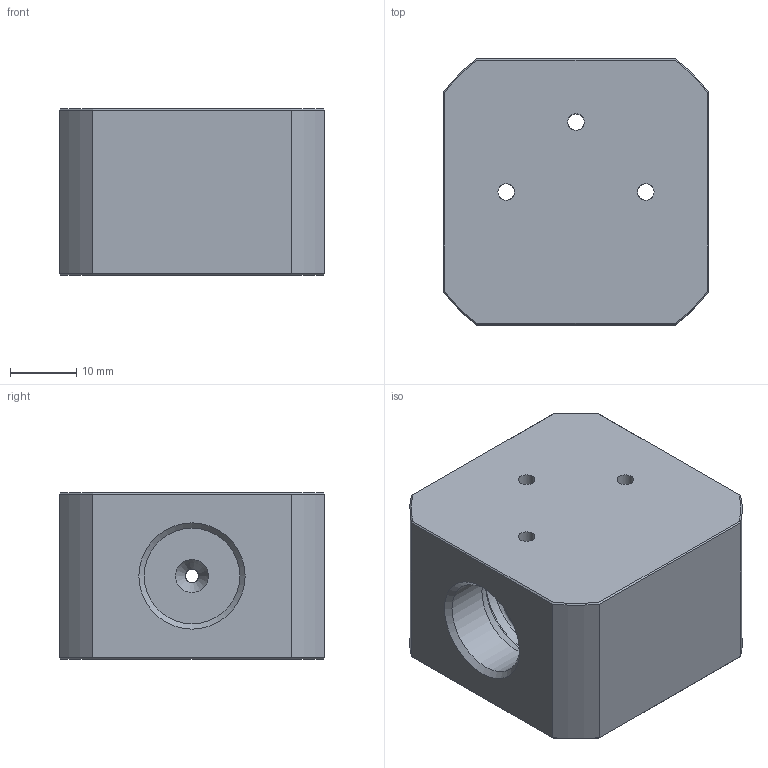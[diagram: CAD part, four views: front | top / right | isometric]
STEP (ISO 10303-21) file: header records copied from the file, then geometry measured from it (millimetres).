
FILE_DESCRIPTION(/* description */ (''),/* implementation_level */ '2;1');
FILE_NAME(/* name */ 'FIT.TEE.M16.10000.stp',/* time_stamp */ '2026-07-09T21:57:13+02:00',/* author */ ('janos'),/* organization */ (''),/* preprocessor_version */ 'ST-DEVELOPER v19.2',/* originating_system */ 'Autodesk Inventor 2024',/* authorisation */ '');
FILE_SCHEMA (('AUTOMOTIVE_DESIGN { 1 0 10303 214 3 1 1 }'));
Length unit declared in the file: millimetre
Products named in the file (1): W.16.1-4.4000
Bounding box: 40 x 40 x 25 mm (x, y, z)
Volume: 32721 mm3; surface area: 8767.7 mm2
Topology: 1 solids, 1 shells, 66 faces, 183 edges, 115 vertices
Faces by surface type: cylinder 22, cone 18, plane 17, torus 9
Full cylindrical faces by diameter (mm): 2 x2, 2.5 x6, 3 x1, 14.376 x3
Entity records: 2554 total; most frequent: CARTESIAN_POINT 882, ORIENTED_EDGE 364, DIRECTION 323, EDGE_CURVE 182, AXIS2_PLACEMENT_3D 138, VERTEX_POINT 115, EDGE_LOOP 79, CIRCLE 71
